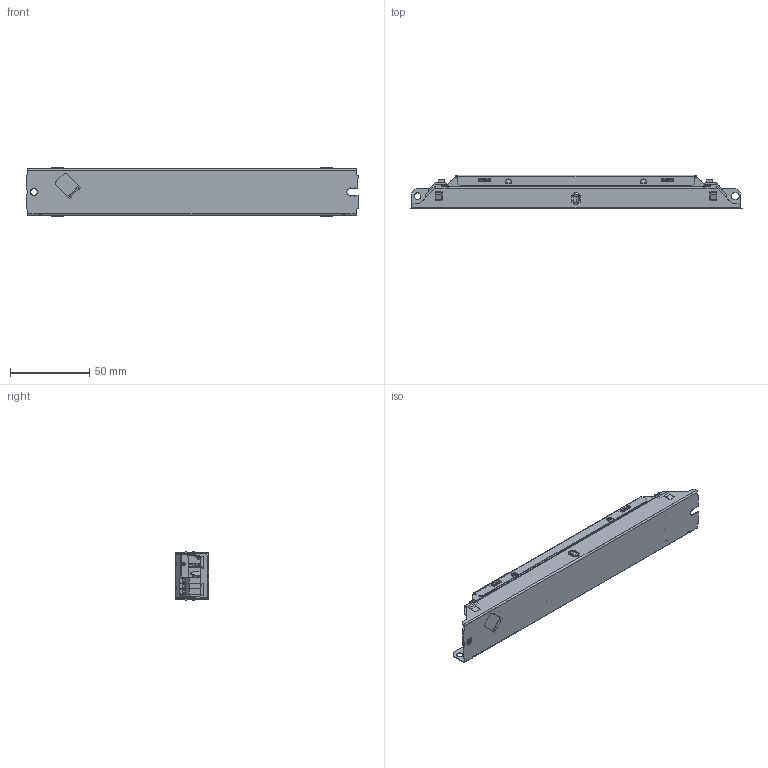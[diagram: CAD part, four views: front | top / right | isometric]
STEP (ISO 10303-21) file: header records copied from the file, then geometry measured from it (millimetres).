
FILE_DESCRIPTION (( 'STEP AP203' ), '1' );
FILE_NAME ('OTFIT_Non-self_18_35_65.STEP', '2017-10-17T09:21:49', ( '' ), ( '' ), 'SwSTEP 2.0', 'SolidWorks 2015', '' );
FILE_SCHEMA (( 'CONFIG_CONTROL_DESIGN' ));
Length unit declared in the file: millimetre
Products named in the file (41): 021_000135_0500_L06_#T_Z140; 024_0805_SMD_Cap; toroid_D10; 075_JUMPER_1500_L06; 041_DO204AL_0500_L09#H_A_d3x9_0750_L07; 022_185080_1500_L08_H140; 061_SO08_127_0620_SMD_Standard; non selv 65ws linear  rev01; 022_180050_1500_L08_H1105; 041_DO213AA_SOD80_SMD_Standard; 024_0603_SMD_Cap; 011_0603_SMD_Res; OTFIT_Non-self_18_35_65; 075_JUMPER_1750; 041_SOD123_SMD_Standard; 034_0805_BEAD_SMD_Standard; 041_SOD323_SMD_Standard; ZNN-3035512-000-00; code_switch_a; 044_SOT23_SMD_Standard; 034_091038_0500_L06_BEAD_Standard; 011_1206_SMD_Res; ZNN-3035515-000-00; wago_250-10X_2p; 041_DO219_SMD_AB; 041_DO214AA_SMB_SMD_Standard; 022_185075_1500_L08_H140; ZNN-2127326-000-01; wago_250-10X_3p; 041_DO214AC_SMA_SMD_Standard; 045_TO252_DPAK_SMD_Standard; 075_JUMPER_0850_L08; non selv 65ws linear  reva2; choke_ef20_emi; 075_JUMPER_1000_L06; 061_SOT23-5_095_0305_SMD_SOT23-6; 031_0805_SMD_Res; 024_1206_SMD_Cap; choke_ef20; 075_JUMPER_1250_L06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
Assembly tree (126 placements, depth 3):
  OTFIT_Non-self_18_35_65
    ZNN-3035512-000-00
    ZNN-3035515-000-00
    ZNN-2127326-000-01  x2
    non selv 65ws linear  rev01
      non selv 65ws linear  reva2
      024_1206_SMD_Cap  x2
      024_0805_SMD_Cap  x7
      061_SO08_127_0620_SMD_Standard
      011_0603_SMD_Res  x24
      041_SOD323_SMD_Standard  x6
      011_1206_SMD_Res  x17
      022_185075_1500_L08_H140
      075_JUMPER_0850_L08
      031_0805_SMD_Res  x14
      021_000135_0500_L06_#T_Z140
      022_185080_1500_L08_H140  x2
      024_0603_SMD_Cap  x8
      034_0805_BEAD_SMD_Standard
      034_091038_0500_L06_BEAD_Standard  x2
      041_DO214AA_SMB_SMD_Standard
      045_TO252_DPAK_SMD_Standard  x2
      061_SOT23-5_095_0305_SMD_SOT23-6
      022_130060_1000_L07_A_H094
      041_DO204AL_0500_L09#H_A_d3x9_0750_L07
      041_DO213AA_SOD80_SMD_Standard
      041_SOD123_SMD_Standard  x5
      044_SOT23_SMD_Standard  x2
      041_DO219_SMD_AB
      041_DO214AC_SMA_SMD_Standard  x5
      075_JUMPER_1000_L06  x2
      075_JUMPER_1250_L06
      075_JUMPER_1500_L06
      022_180050_1500_L08_H1105
      075_JUMPER_1750
      code_switch_a
      wago_250-10X_2p
      wago_250-10X_3p
      choke_ef20_emi
      choke_ef20  x2
      toroid_D10
Bounding box: 209 x 21.2 x 31.39 mm (x, y, z)
Volume: 43225 mm3; surface area: 83032.2 mm2
Topology: 196 solids, 198 shells, 7239 faces, 17727 edges, 10554 vertices
Faces by surface type: plane 3798, cylinder 2187, sphere 604, bspline 405, torus 230, cone 15
Entity records: 115450 total; most frequent: CARTESIAN_POINT 28430, ORIENTED_EDGE 16720, DIRECTION 16528, EDGE_CURVE 8360, AXIS2_PLACEMENT_3D 5523, LINE 5482, VECTOR 5482, VERTEX_POINT 5301
